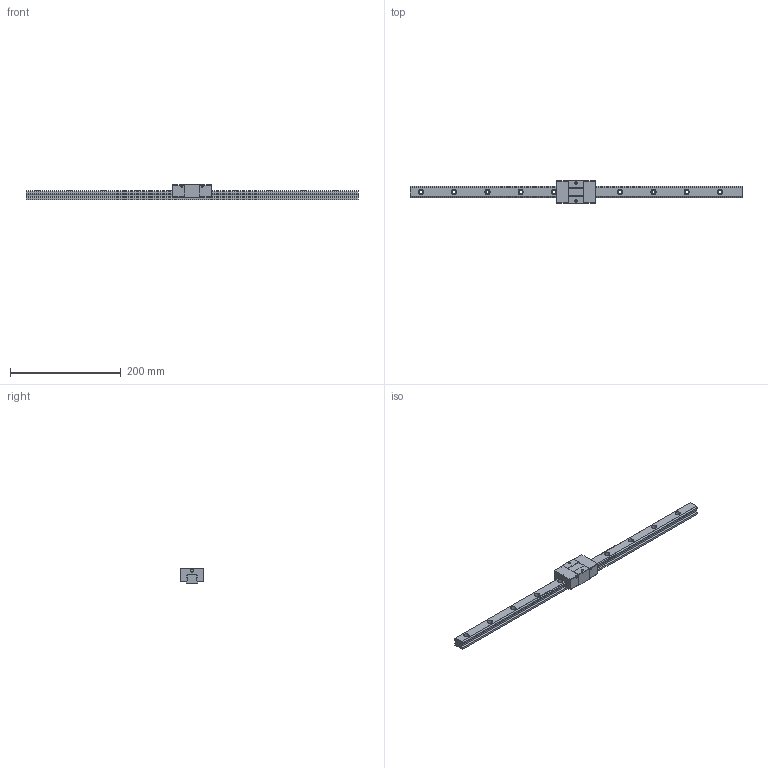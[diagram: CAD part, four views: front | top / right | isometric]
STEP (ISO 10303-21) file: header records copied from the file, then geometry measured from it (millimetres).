
FILE_DESCRIPTION (( 'STEP AP203' ), '1' );
FILE_NAME ('TRS20VS-WZ.STEP', '2024-06-12T06:35:42', ( '' ), ( '' ), 'SwSTEP 2.0', 'SolidWorks 2022', '' );
FILE_SCHEMA (( 'CONFIG_CONTROL_DESIGN' ));
Length unit declared in the file: millimetre
Products named in the file (1): TRS20VS-WZ
Bounding box: 600 x 42 x 28 mm (x, y, z)
Volume: 220034.7 mm3; surface area: 62352 mm2
Topology: 2 solids, 2 shells, 186 faces, 484 edges, 320 vertices
Faces by surface type: plane 94, cylinder 92
Entity records: 5863 total; most frequent: DIRECTION 1042, CARTESIAN_POINT 991, ORIENTED_EDGE 968, EDGE_CURVE 484, AXIS2_PLACEMENT_3D 371, VERTEX_POINT 320, LINE 300, VECTOR 300
